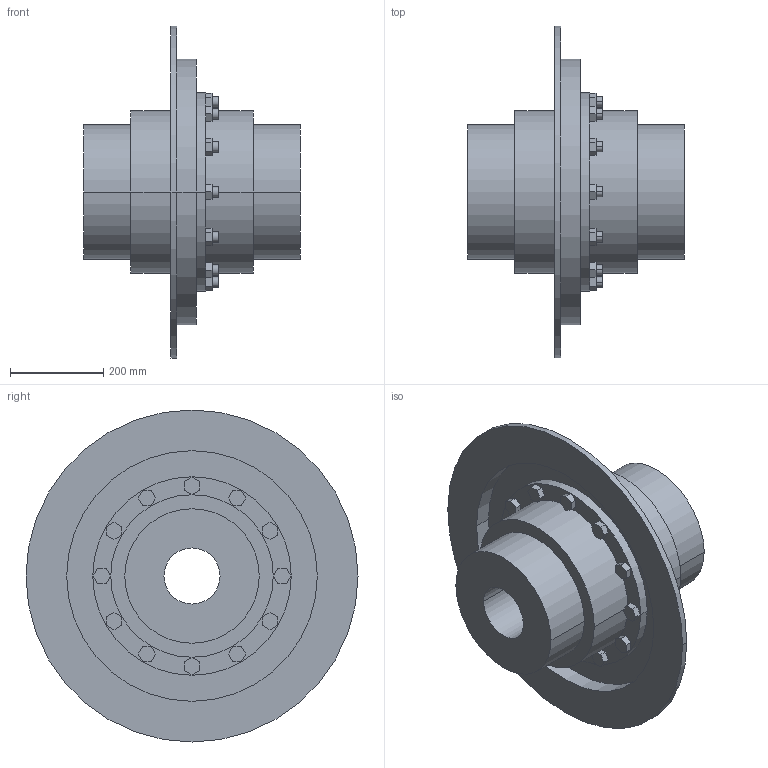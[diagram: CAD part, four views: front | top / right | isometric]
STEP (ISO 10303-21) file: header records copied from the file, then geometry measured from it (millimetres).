
FILE_DESCRIPTION((''),'2;1');
FILE_NAME('A19126800-0_ASM','2018-11-13T',('AB_Roschiwal'),('RENK AG'),'PRO/ENGINEER BY PARAMETRIC TECHNOLOGY CORPORATION, 2015440','PRO/ENGINEER BY PARAMETRIC TECHNOLOGY CORPORATION, 2015440','');
FILE_SCHEMA(('CONFIG_CONTROL_DESIGN'));
Length unit declared in the file: millimetre
Products named in the file (4): LBKT180_GEHAEUSE; LBKT180_NABE; LBKT180_BREMSSCHEIBE; A19126800-0_ASM
Assembly tree (4 placements, depth 2):
  A19126800-0_ASM
    LBKT180_GEHAEUSE
    LBKT180_NABE  x2
    LBKT180_BREMSSCHEIBE
Bounding box: 464 x 711 x 711 mm (x, y, z)
Volume: 37781688.7 mm3; surface area: 2497450.1 mm2
Topology: 4 solids, 4 shells, 294 faces, 708 edges, 472 vertices
Faces by surface type: plane 202, cylinder 92
Entity records: 8412 total; most frequent: DIRECTION 1432, CARTESIAN_POINT 1430, ORIENTED_EDGE 1368, EDGE_CURVE 684, VECTOR 516, LINE 516, AXIS2_PLACEMENT_3D 458, VERTEX_POINT 456
